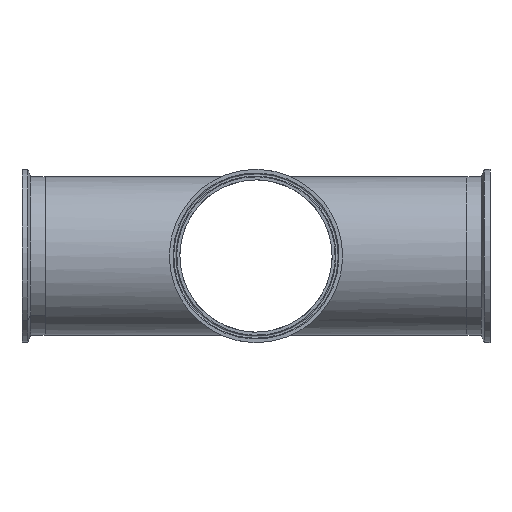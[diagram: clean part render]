
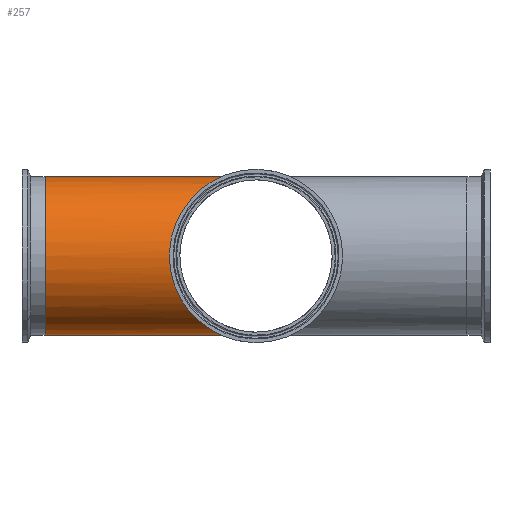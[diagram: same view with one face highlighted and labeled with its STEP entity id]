
A CAD part, left-side view. The second image highlights one B-rep face of the part: STEP entity #257.
In plain terms, the highlighted cylindrical face has radius 76.2 mm (diameter 152.4 mm), a partial arc.
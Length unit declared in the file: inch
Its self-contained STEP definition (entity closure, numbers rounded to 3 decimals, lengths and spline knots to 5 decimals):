
#17 = AXIS2_PLACEMENT_3D ( 'NONE', #68, #1353, #828 ) ;
#18 = ORIENTED_EDGE ( 'NONE', *, *, #1328, .F. ) ;
#39 = EDGE_CURVE ( 'NONE', #707, #1203, #891, .T. ) ;
#68 = CARTESIAN_POINT ( 'NONE',  ( 0., 8., 0. ) ) ;
#69 = ORIENTED_EDGE ( 'NONE', *, *, #1137, .F. ) ;
#87 = CARTESIAN_POINT ( 'NONE',  ( 0., 8., -3. ) ) ;
#205 = EDGE_CURVE ( 'NONE', #1105, #466, #1283, .T. ) ;
#217 = CYLINDRICAL_SURFACE ( 'NONE', #950, 3. ) ;
#257 = ADVANCED_FACE ( 'NONE', ( #1176 ), #217, .T. ) ;
#315 = DIRECTION ( 'NONE',  ( 0., -1., 0. ) ) ;
#373 = ORIENTED_EDGE ( 'NONE', *, *, #39, .T. ) ;
#399 = CARTESIAN_POINT ( 'NONE',  ( 0., 8., 3. ) ) ;
#466 = VERTEX_POINT ( 'NONE', #619 ) ;
#487 = CARTESIAN_POINT ( 'NONE',  ( 0., 0., 3. ) ) ;
#517 = EDGE_LOOP ( 'NONE', ( #1076, #69, #373, #18 ) ) ;
#601 = CARTESIAN_POINT ( 'NONE',  ( 0., 8., 3. ) ) ;
#619 = CARTESIAN_POINT ( 'NONE',  ( 0., 0., 3. ) ) ;
#667 = VECTOR ( 'NONE', #849, 39.37008 ) ;
#707 = VERTEX_POINT ( 'NONE', #87 ) ;
#734 = DIRECTION ( 'NONE',  ( 0., 0., -1. ) ) ;
#777 = DIRECTION ( 'NONE',  ( 0., -1., 0. ) ) ;
#807 = CARTESIAN_POINT ( 'NONE',  ( -6., 6., 3. ) ) ;
#828 = DIRECTION ( 'NONE',  ( 0., 0., 1. ) ) ;
#849 = DIRECTION ( 'NONE',  ( 0., -1., 0. ) ) ;
#891 = LINE ( 'NONE', #1331, #1266 ) ;
#950 = AXIS2_PLACEMENT_3D ( 'NONE', #1277, #315, #734 ) ;
#1021 =( BOUNDED_CURVE ( )  B_SPLINE_CURVE ( 3, ( #487, #807, #1243, #1319 ),
 .UNSPECIFIED., .F., .T. ) 
 B_SPLINE_CURVE_WITH_KNOTS ( ( 4, 4 ),
 ( 1.5708, 4.71239 ),
 .UNSPECIFIED. ) 
 CURVE ( )  GEOMETRIC_REPRESENTATION_ITEM ( )  RATIONAL_B_SPLINE_CURVE ( ( 1., 0.333, 0.333, 1. ) ) 
 REPRESENTATION_ITEM ( '' )  );
#1045 = CIRCLE ( 'NONE', #17, 3. ) ;
#1076 = ORIENTED_EDGE ( 'NONE', *, *, #205, .F. ) ;
#1105 = VERTEX_POINT ( 'NONE', #601 ) ;
#1137 = EDGE_CURVE ( 'NONE', #707, #1105, #1045, .T. ) ;
#1176 = FACE_OUTER_BOUND ( 'NONE', #517, .T. ) ;
#1203 = VERTEX_POINT ( 'NONE', #1367 ) ;
#1243 = CARTESIAN_POINT ( 'NONE',  ( -6., 6., -3. ) ) ;
#1266 = VECTOR ( 'NONE', #777, 39.37008 ) ;
#1277 = CARTESIAN_POINT ( 'NONE',  ( 0., 8., 0. ) ) ;
#1283 = LINE ( 'NONE', #399, #667 ) ;
#1319 = CARTESIAN_POINT ( 'NONE',  ( 0., 0., -3. ) ) ;
#1328 = EDGE_CURVE ( 'NONE', #466, #1203, #1021, .T. ) ;
#1331 = CARTESIAN_POINT ( 'NONE',  ( 0., 8., -3. ) ) ;
#1353 = DIRECTION ( 'NONE',  ( 0., 1., 0. ) ) ;
#1367 = CARTESIAN_POINT ( 'NONE',  ( 0., 0., -3. ) ) ;
